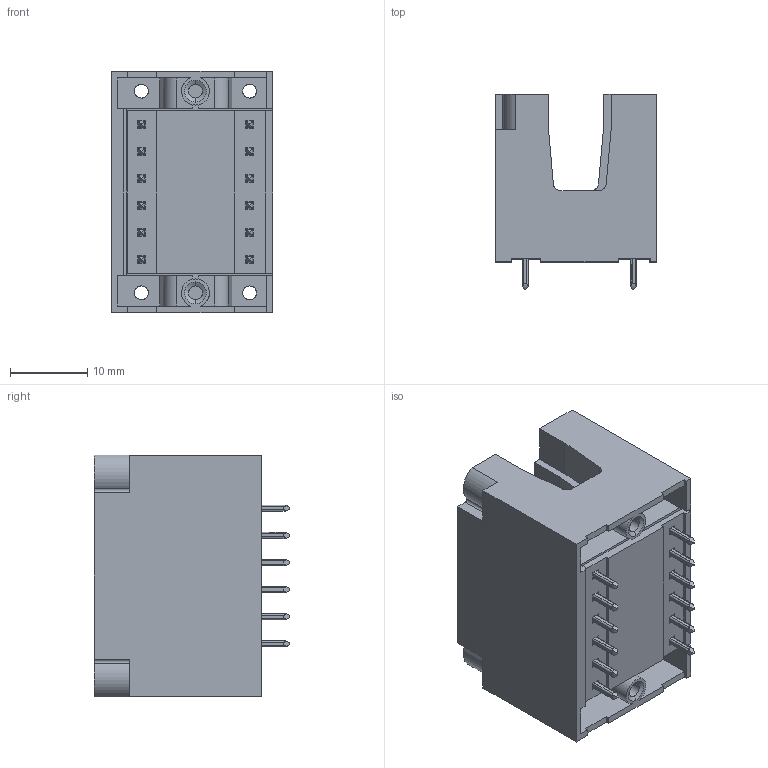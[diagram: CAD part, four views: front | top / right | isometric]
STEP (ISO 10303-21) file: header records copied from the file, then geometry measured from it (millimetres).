
FILE_DESCRIPTION (( 'STEP AP203' ), '1' );
FILE_NAME ('110-P-225-12.STEP', '2016-12-15T16:08:40', ( '' ), ( '' ), 'SwSTEP 2.0', 'SolidWorks 2016', '' );
FILE_SCHEMA (( 'CONFIG_CONTROL_DESIGN' ));
Products named in the file (1): 110-P-225-12
Bounding box: 20.9 x 25.3 x 31.3 mm (x, y, z)
Volume: 7991 mm3; surface area: 9008.9 mm2
Topology: 1 solids, 38 shells, 1935 faces, 5046 edges, 3257 vertices
Faces by surface type: plane 1244, cylinder 529, cone 122, bspline 40
Entity records: 70505 total; most frequent: CARTESIAN_POINT 24960, ORIENTED_EDGE 10092, DIRECTION 8366, EDGE_CURVE 5046, LINE 3512, VECTOR 3512, VERTEX_POINT 3257, AXIS2_PLACEMENT_3D 2427
